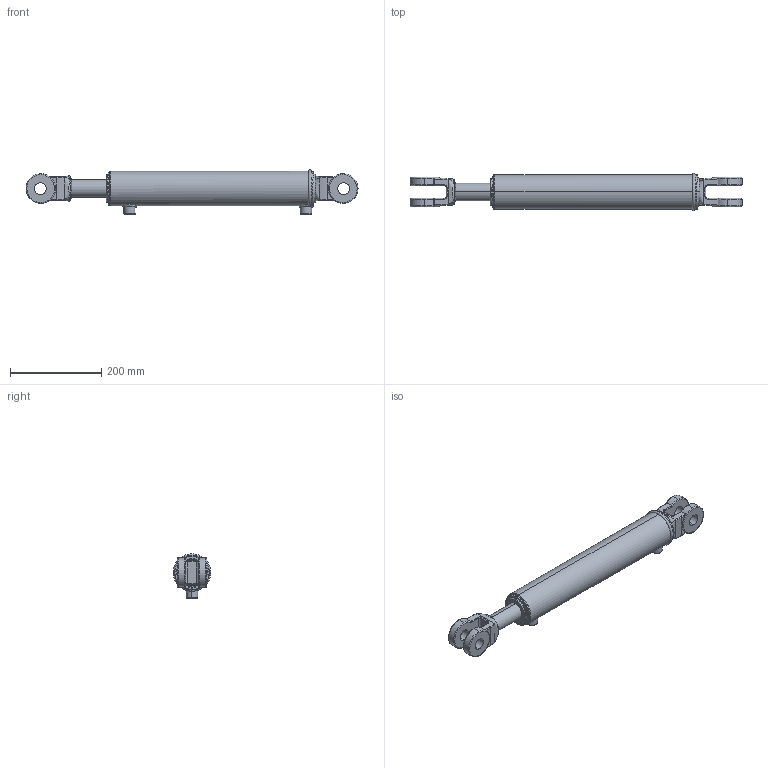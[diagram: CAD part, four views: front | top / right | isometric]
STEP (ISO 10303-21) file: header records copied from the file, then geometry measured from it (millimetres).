
FILE_DESCRIPTION (( 'STEP AP203' ), '1' );
FILE_NAME ('CL-CL250150x355 (14).STEP', '2014-11-21T02:13:08', ( '' ), ( '' ), 'SwSTEP 2.0', 'SolidWorks 2014', '' );
FILE_SCHEMA (( 'CONFIG_CONTROL_DESIGN' ));
Length unit declared in the file: millimetre
Products named in the file (5): CL-CL250150x355 (14) body; 2.5 inch ext circlip; CL-CL250150x355 (14) BODY; SPARE 6_14-xx; CL-CL250150x355 (14)
Assembly tree (4 placements, depth 3):
  CL-CL250150x355 (14)
    CL-CL250150x355 (14) BODY
      CL-CL250150x355 (14) body
      2.5 inch ext circlip
    SPARE 6_14-xx
Bounding box: 729.39 x 82.17 x 97.2 mm (x, y, z)
Volume: 2808814.6 mm3; surface area: 258313.4 mm2
Topology: 3 solids, 3 shells, 210 faces, 512 edges, 315 vertices
Faces by surface type: cylinder 91, bspline 59, plane 37, torus 15, cone 8
Entity records: 11387 total; most frequent: CARTESIAN_POINT 6222, ORIENTED_EDGE 1016, DIRECTION 943, EDGE_CURVE 508, AXIS2_PLACEMENT_3D 394, VERTEX_POINT 315, CIRCLE 235, EDGE_LOOP 233
